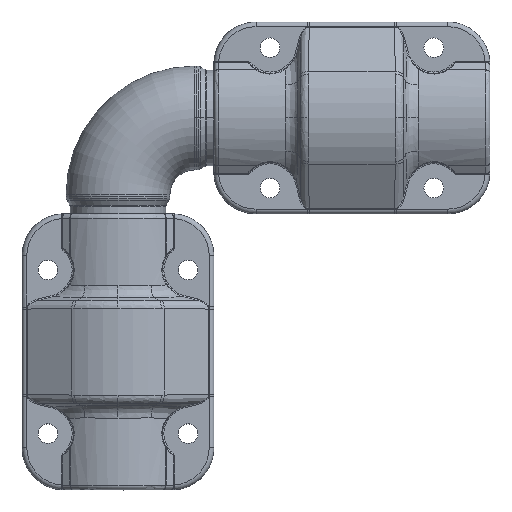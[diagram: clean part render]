
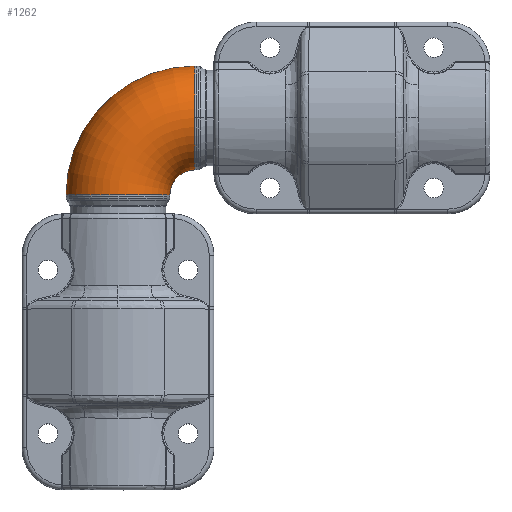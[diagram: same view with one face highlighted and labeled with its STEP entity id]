
A CAD part, top view. The second image highlights one B-rep face of the part: STEP entity #1262.
In plain terms, the highlighted toroidal (fillet/blend) face has major radius 16.4 mm and minor radius 11.1 mm.
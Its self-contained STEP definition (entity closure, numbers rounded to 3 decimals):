
#223=CARTESIAN_POINT('',(16.4,-16.4,0.));
#224=DIRECTION('',(0.,0.,1.));
#225=DIRECTION('',(0.,1.,0.));
#226=AXIS2_PLACEMENT_3D('',#223,#224,#225);
#255=CARTESIAN_POINT('',(16.4,0.,0.));
#256=DIRECTION('',(1.,0.,0.));
#257=DIRECTION('',(0.,0.,1.));
#258=AXIS2_PLACEMENT_3D('',#255,#256,#257);
#263=CARTESIAN_POINT('',(16.4,0.,0.));
#264=DIRECTION('',(1.,0.,0.));
#265=DIRECTION('',(0.,-0.003,1.));
#266=AXIS2_PLACEMENT_3D('',#263,#264,#265);
#271=CARTESIAN_POINT('',(16.4,-16.4,0.));
#272=DIRECTION('',(0.,0.,1.));
#273=DIRECTION('',(0.,1.,0.));
#274=AXIS2_PLACEMENT_3D('',#271,#272,#273);
#279=CARTESIAN_POINT('',(0.,-16.4,0.));
#280=DIRECTION('',(0.,-1.,0.));
#281=DIRECTION('',(1.,0.,0.));
#282=AXIS2_PLACEMENT_3D('',#279,#280,#281);
#287=CARTESIAN_POINT('',(0.,-16.4,0.));
#288=DIRECTION('',(0.,-1.,0.));
#289=DIRECTION('',(0.005,0.,1.));
#290=AXIS2_PLACEMENT_3D('',#287,#288,#289);
#295=CARTESIAN_POINT('',(16.4,0.,0.));
#296=DIRECTION('',(1.,0.,0.));
#297=DIRECTION('',(0.,1.,0.));
#298=AXIS2_PLACEMENT_3D('',#295,#296,#297);
#959=CARTESIAN_POINT('',(16.4,0.,11.1));
#960=VERTEX_POINT('',#959);
#961=CARTESIAN_POINT('',(16.4,11.1,0.));
#962=VERTEX_POINT('',#961);
#967=CARTESIAN_POINT('',(16.4,-11.1,0.));
#968=VERTEX_POINT('',#967);
#969=CARTESIAN_POINT('',(16.4,-0.028,11.1));
#970=VERTEX_POINT('',#969);
#971=CARTESIAN_POINT('',(-11.1,-16.4,0.));
#972=VERTEX_POINT('',#971);
#975=CARTESIAN_POINT('',(11.1,-16.4,0.));
#976=VERTEX_POINT('',#975);
#977=CARTESIAN_POINT('',(0.053,-16.4,11.1));
#978=VERTEX_POINT('',#977);
#1246=CARTESIAN_POINT('',(16.4,-16.4,0.));
#1247=DIRECTION('',(0.,0.,1.));
#1248=DIRECTION('',(-1.,0.,0.));
#1249=AXIS2_PLACEMENT_3D('',#1246,#1247,#1248);
#1250=TOROIDAL_SURFACE('',#1249,16.4,11.1);
#1251=ORIENTED_EDGE('',*,*,#1209,.T.);
#1252=ORIENTED_EDGE('',*,*,#1207,.T.);
#1253=ORIENTED_EDGE('',*,*,#1240,.T.);
#1255=ORIENTED_EDGE('',*,*,#1254,.T.);
#1257=ORIENTED_EDGE('',*,*,#1256,.T.);
#1258=ORIENTED_EDGE('',*,*,#1234,.F.);
#1259=ORIENTED_EDGE('',*,*,#1186,.T.);
#1260=EDGE_LOOP('',(#1251,#1252,#1253,#1255,#1257,#1258,#1259));
#1261=FACE_OUTER_BOUND('',#1260,.F.);
#227=CIRCLE('',#226,27.5);
#259=CIRCLE('',#258,11.1);
#267=CIRCLE('',#266,11.1);
#275=CIRCLE('',#274,5.3);
#283=CIRCLE('',#282,11.1);
#291=CIRCLE('',#290,11.1);
#299=CIRCLE('',#298,11.1);
#1186=EDGE_CURVE('',#962,#960,#299,.T.);
#1207=EDGE_CURVE('',#970,#968,#267,.T.);
#1209=EDGE_CURVE('',#960,#970,#259,.T.);
#1234=EDGE_CURVE('',#962,#972,#227,.T.);
#1240=EDGE_CURVE('',#968,#976,#275,.T.);
#1254=EDGE_CURVE('',#976,#978,#283,.T.);
#1256=EDGE_CURVE('',#978,#972,#291,.T.);
#1262=ADVANCED_FACE('',(#1261),#1250,.T.);
